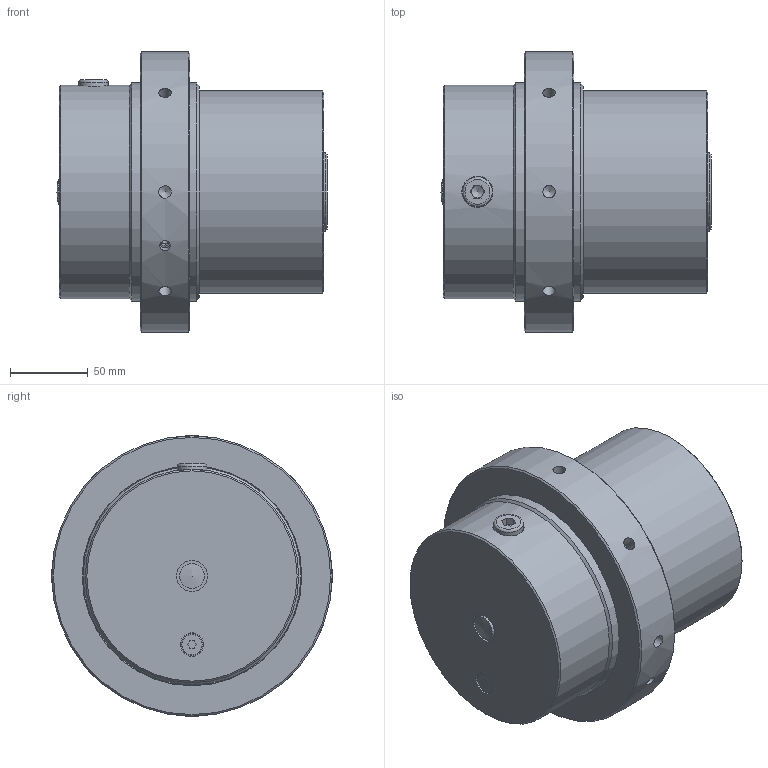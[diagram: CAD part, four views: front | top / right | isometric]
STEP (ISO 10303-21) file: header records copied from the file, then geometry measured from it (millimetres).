
FILE_DESCRIPTION( ( 'Unknown' ), '1' );
FILE_NAME( 'F:/JAKOB-STEP+IGES-Dateien/STEP-Dateien/ZSF/ZSF 16000 - 2.stp', 'Unknown', ( 'Unknown' ), ( 'Unknown' ), 'PSStep 10.1', 'Unknown', ' ' );
FILE_SCHEMA( ( 'AUTOMOTIVE_DESIGN { 1 0 10303 214 1 1 1 1 }' ) );
Length unit declared in the file: millimetre
Products named in the file (1): KT100629
Bounding box: 173.4 x 180 x 180 mm (x, y, z)
Volume: 2667242.8 mm3; surface area: 136922 mm2
Topology: 1 solids, 3 shells, 102 faces, 245 edges, 158 vertices
Faces by surface type: plane 42, cone 29, cylinder 28, torus 2, sphere 1
Full cylindrical faces by diameter (mm): 1.5 x1, 6.8 x2, 8 x8, 8.6 x2, 11.5 x1, 11.8 x1, 15 x1, 16 x1, 19 x1, 20 x2, 36.5 x1, 50.5 x1, 130 x1, 137 x1, 140 x2, 180 x1
Entity records: 3857 total; most frequent: CARTESIAN_POINT 1110, DIRECTION 404, ORIENTED_EDGE 282, EDGE_LOOP 174, AXIS2_PLACEMENT_3D 171, EDGE_CURVE 141, FACE_OUTER_BOUND 131, VERTEX_POINT 128
